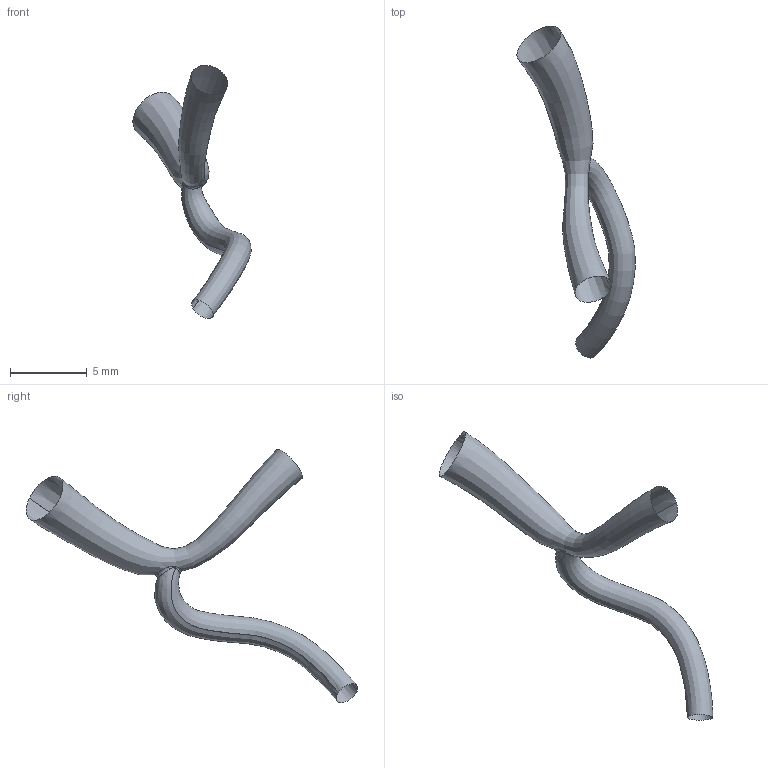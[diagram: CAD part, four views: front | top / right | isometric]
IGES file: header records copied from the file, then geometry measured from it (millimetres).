
Global section: file name: C:\Documents and Settings\Administrator\Desktop\FDA Bifurcation win\RawData_for_IGES\HRCA_Data\20010719.140840\IGES\20010719.140840.RM2.BIFUR.ED.igs; native system: Rhinoceros ( May 19 2006 ); preprocessor: Trout Lake IGES 012 May 19 2006; date: 100728.210752; units: centimetre
Bounding box: 7.68 x 21.54 x 16.45 mm (x, y, z)
Surface area: 231.6 mm2 (no closed solid volume)
Topology: 0 solids, 0 shells, 3 faces, 38 edges, 33 vertices
Faces by surface type: bspline 3
